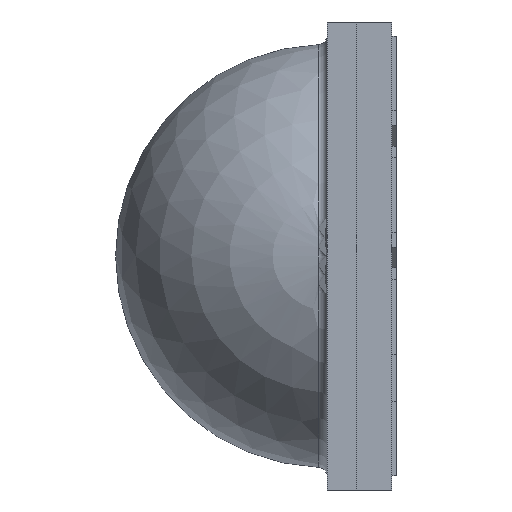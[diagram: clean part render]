
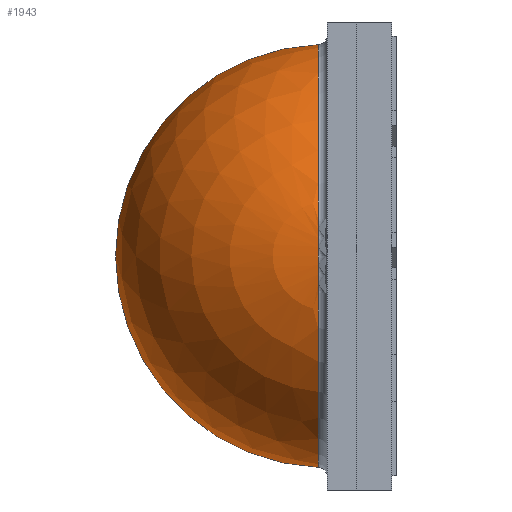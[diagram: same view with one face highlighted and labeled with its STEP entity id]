
A CAD part, left-side view. The second image highlights one B-rep face of the part: STEP entity #1943.
In plain terms, the highlighted spherical face has radius 2.26 mm.
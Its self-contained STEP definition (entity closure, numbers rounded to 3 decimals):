
#271 = AXIS2_PLACEMENT_3D ( 'NONE', #2121, #1951, #1446 ) ;
#336 = FACE_OUTER_BOUND ( 'NONE', #2113, .T. ) ;
#338 = CIRCLE ( 'NONE', #1564, 2.26 ) ;
#696 = CARTESIAN_POINT ( 'NONE',  ( 0., 0.786, -2.258 ) ) ;
#764 = VERTEX_POINT ( 'NONE', #1613 ) ;
#868 = DIRECTION ( 'NONE',  ( 0., 0., -1. ) ) ;
#887 = DIRECTION ( 'NONE',  ( 0., -1., 0. ) ) ;
#936 = VERTEX_POINT ( 'NONE', #1339 ) ;
#1029 = CARTESIAN_POINT ( 'NONE',  ( 0., 0.69, 0. ) ) ;
#1052 = DIRECTION ( 'NONE',  ( -1., 0., 0. ) ) ;
#1130 = DIRECTION ( 'NONE',  ( 0., 0., -1. ) ) ;
#1260 = CIRCLE ( 'NONE', #271, 2.26 ) ;
#1333 = AXIS2_PLACEMENT_3D ( 'NONE', #1849, #887, #868 ) ;
#1339 = CARTESIAN_POINT ( 'NONE',  ( 0., 0.786, 2.258 ) ) ;
#1446 = DIRECTION ( 'NONE',  ( 0., 0., 1. ) ) ;
#1473 = EDGE_CURVE ( 'NONE', #936, #1647, #1710, .T. ) ;
#1564 = AXIS2_PLACEMENT_3D ( 'NONE', #1606, #1973, #1130 ) ;
#1606 = CARTESIAN_POINT ( 'NONE',  ( 0., 0.69, 0. ) ) ;
#1613 = CARTESIAN_POINT ( 'NONE',  ( 0., 2.95, 0. ) ) ;
#1647 = VERTEX_POINT ( 'NONE', #696 ) ;
#1671 = ORIENTED_EDGE ( 'NONE', *, *, #2046, .T. ) ;
#1710 = CIRCLE ( 'NONE', #1333, 2.258 ) ;
#1727 = DIRECTION ( 'NONE',  ( 0., 0., 1. ) ) ;
#1763 = EDGE_CURVE ( 'NONE', #764, #936, #338, .T. ) ;
#1849 = CARTESIAN_POINT ( 'NONE',  ( 0., 0.786, 0. ) ) ;
#1856 = ORIENTED_EDGE ( 'NONE', *, *, #1763, .F. ) ;
#1881 = AXIS2_PLACEMENT_3D ( 'NONE', #1029, #1052, #1727 ) ;
#1943 = ADVANCED_FACE ( 'NONE', ( #336 ), #2152, .T. ) ;
#1951 = DIRECTION ( 'NONE',  ( -1., 0., 0. ) ) ;
#1973 = DIRECTION ( 'NONE',  ( 1., 0., 0. ) ) ;
#2046 = EDGE_CURVE ( 'NONE', #764, #1647, #1260, .T. ) ;
#2050 = ORIENTED_EDGE ( 'NONE', *, *, #1473, .F. ) ;
#2113 = EDGE_LOOP ( 'NONE', ( #1856, #1671, #2050 ) ) ;
#2121 = CARTESIAN_POINT ( 'NONE',  ( 0., 0.69, 0. ) ) ;
#2152 = SPHERICAL_SURFACE ( 'NONE', #1881, 2.26 ) ;
